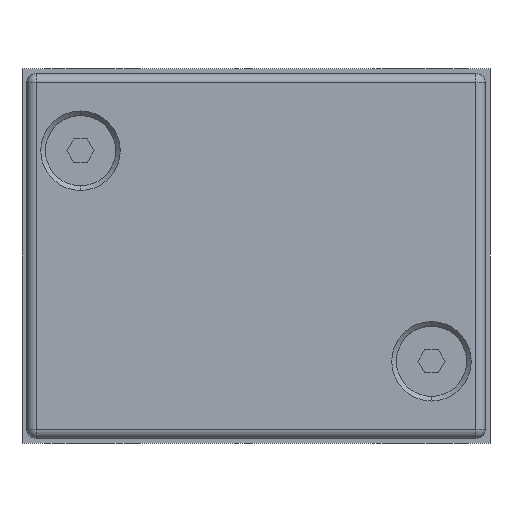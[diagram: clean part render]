
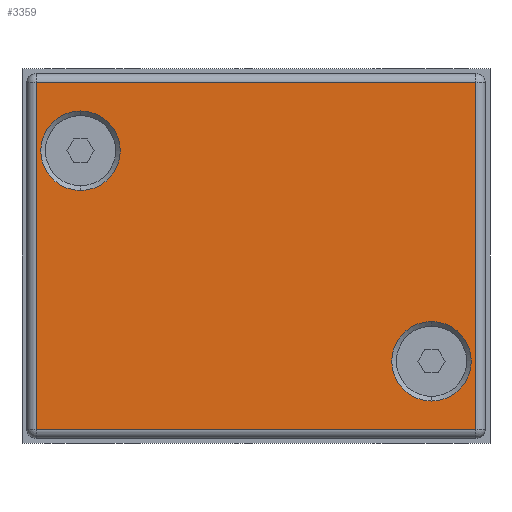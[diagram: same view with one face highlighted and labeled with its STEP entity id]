
A CAD part, front view. The second image highlights one B-rep face of the part: STEP entity #3359.
In plain terms, the highlighted planar face has unit normal (0, -1, 0).
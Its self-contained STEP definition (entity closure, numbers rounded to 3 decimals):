
#34 = AXIS2_PLACEMENT_3D ( 'NONE', #2702, #2603, #2604 ) ;
#54 = AXIS2_PLACEMENT_3D ( 'NONE', #2642, #2639, #2700 ) ;
#71 = EDGE_CURVE ( 'NONE', #2529, #2539, #2861, .T. ) ;
#86 = AXIS2_PLACEMENT_3D ( 'NONE', #2136, #2183, #2160 ) ;
#135 = AXIS2_PLACEMENT_3D ( 'NONE', #3091, #3061, #3054 ) ;
#160 = EDGE_CURVE ( 'NONE', #2447, #2370, #2924, .T. ) ;
#277 = VECTOR ( 'NONE', #2614, 1000. ) ;
#278 = CIRCLE ( 'NONE', #54, 4.25 ) ;
#282 = LINE ( 'NONE', #2600, #283 ) ;
#283 = VECTOR ( 'NONE', #2628, 1000. ) ;
#294 = CIRCLE ( 'NONE', #34, 4.25 ) ;
#299 = LINE ( 'NONE', #2616, #277 ) ;
#322 = CARTESIAN_POINT ( 'NONE',  ( 1.5, -2., 38.5 ) ) ;
#345 = DIRECTION ( 'NONE',  ( 0., 0., -1. ) ) ;
#346 = DIRECTION ( 'NONE',  ( 0., -1., 0. ) ) ;
#347 = PLANE ( 'NONE',  #2227 ) ;
#662 = ORIENTED_EDGE ( 'NONE', *, *, #730, .T. ) ;
#681 = EDGE_CURVE ( 'NONE', #2407, #2406, #1519, .T. ) ;
#713 = EDGE_CURVE ( 'NONE', #2406, #2570, #299, .T. ) ;
#714 = EDGE_CURVE ( 'NONE', #2539, #2529, #278, .T. ) ;
#717 = EDGE_CURVE ( 'NONE', #2570, #2408, #282, .T. ) ;
#724 = EDGE_CURVE ( 'NONE', #2370, #2447, #294, .T. ) ;
#730 = EDGE_CURVE ( 'NONE', #2408, #2407, #1083, .T. ) ;
#1008 = DIRECTION ( 'NONE',  ( 0., 0., 1. ) ) ;
#1009 = CARTESIAN_POINT ( 'NONE',  ( 48.5, -2., 38.5 ) ) ;
#1082 = VECTOR ( 'NONE', #2689, 1000. ) ;
#1083 = LINE ( 'NONE', #2707, #1082 ) ;
#1518 = VECTOR ( 'NONE', #1008, 1000. ) ;
#1519 = LINE ( 'NONE', #1009, #1518 ) ;
#1528 = FACE_OUTER_BOUND ( 'NONE', #3137, .T. ) ;
#1552 = FACE_BOUND ( 'NONE', #3089, .T. ) ;
#1612 = FACE_BOUND ( 'NONE', #3095, .T. ) ;
#1616 = CARTESIAN_POINT ( 'NONE',  ( 6.25, -2., 35.5 ) ) ;
#1648 = CARTESIAN_POINT ( 'NONE',  ( 48.5, -2., 1.5 ) ) ;
#1704 = CARTESIAN_POINT ( 'NONE',  ( 1.5, -2., 38.5 ) ) ;
#1707 = CARTESIAN_POINT ( 'NONE',  ( 48.5, -2., 38.5 ) ) ;
#1794 = CARTESIAN_POINT ( 'NONE',  ( 43.75, -2., 4.5 ) ) ;
#1804 = CARTESIAN_POINT ( 'NONE',  ( 1.5, -2., 1.5 ) ) ;
#1838 = CARTESIAN_POINT ( 'NONE',  ( 6.25, -2., 27. ) ) ;
#2136 = CARTESIAN_POINT ( 'NONE',  ( 6.25, -2., 31.25 ) ) ;
#2160 = DIRECTION ( 'NONE',  ( 0., 0., -1. ) ) ;
#2183 = DIRECTION ( 'NONE',  ( 0., 1., 0. ) ) ;
#2227 = AXIS2_PLACEMENT_3D ( 'NONE', #322, #346, #345 ) ;
#2370 = VERTEX_POINT ( 'NONE', #2677 ) ;
#2406 = VERTEX_POINT ( 'NONE', #1707 ) ;
#2407 = VERTEX_POINT ( 'NONE', #1648 ) ;
#2408 = VERTEX_POINT ( 'NONE', #1804 ) ;
#2447 = VERTEX_POINT ( 'NONE', #1794 ) ;
#2529 = VERTEX_POINT ( 'NONE', #1838 ) ;
#2539 = VERTEX_POINT ( 'NONE', #1616 ) ;
#2570 = VERTEX_POINT ( 'NONE', #1704 ) ;
#2600 = CARTESIAN_POINT ( 'NONE',  ( 1.5, -2., 1.5 ) ) ;
#2603 = DIRECTION ( 'NONE',  ( 0., 1., 0. ) ) ;
#2604 = DIRECTION ( 'NONE',  ( 0., 0., -1. ) ) ;
#2614 = DIRECTION ( 'NONE',  ( -1., 0., 0. ) ) ;
#2616 = CARTESIAN_POINT ( 'NONE',  ( 1.5, -2., 38.5 ) ) ;
#2628 = DIRECTION ( 'NONE',  ( 0., 0., -1. ) ) ;
#2639 = DIRECTION ( 'NONE',  ( 0., 1., 0. ) ) ;
#2642 = CARTESIAN_POINT ( 'NONE',  ( 6.25, -2., 31.25 ) ) ;
#2677 = CARTESIAN_POINT ( 'NONE',  ( 43.75, -2., 13. ) ) ;
#2689 = DIRECTION ( 'NONE',  ( 1., 0., 0. ) ) ;
#2700 = DIRECTION ( 'NONE',  ( 0., 0., -1. ) ) ;
#2702 = CARTESIAN_POINT ( 'NONE',  ( 43.75, -2., 8.75 ) ) ;
#2707 = CARTESIAN_POINT ( 'NONE',  ( 48.5, -2., 1.5 ) ) ;
#2861 = CIRCLE ( 'NONE', #86, 4.25 ) ;
#2924 = CIRCLE ( 'NONE', #135, 4.25 ) ;
#3032 = ORIENTED_EDGE ( 'NONE', *, *, #681, .T. ) ;
#3036 = ORIENTED_EDGE ( 'NONE', *, *, #160, .T. ) ;
#3054 = DIRECTION ( 'NONE',  ( 0., 0., -1. ) ) ;
#3061 = DIRECTION ( 'NONE',  ( 0., 1., 0. ) ) ;
#3089 = EDGE_LOOP ( 'NONE', ( #3169, #3237 ) ) ;
#3091 = CARTESIAN_POINT ( 'NONE',  ( 43.75, -2., 8.75 ) ) ;
#3095 = EDGE_LOOP ( 'NONE', ( #3036, #3230 ) ) ;
#3137 = EDGE_LOOP ( 'NONE', ( #3032, #3153, #3235, #662 ) ) ;
#3153 = ORIENTED_EDGE ( 'NONE', *, *, #713, .T. ) ;
#3169 = ORIENTED_EDGE ( 'NONE', *, *, #71, .T. ) ;
#3230 = ORIENTED_EDGE ( 'NONE', *, *, #724, .T. ) ;
#3235 = ORIENTED_EDGE ( 'NONE', *, *, #717, .T. ) ;
#3237 = ORIENTED_EDGE ( 'NONE', *, *, #714, .T. ) ;
#3359 = ADVANCED_FACE ( 'NONE', ( #1612, #1552, #1528 ), #347, .T. ) ;
